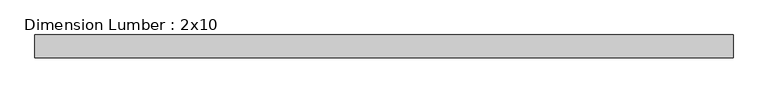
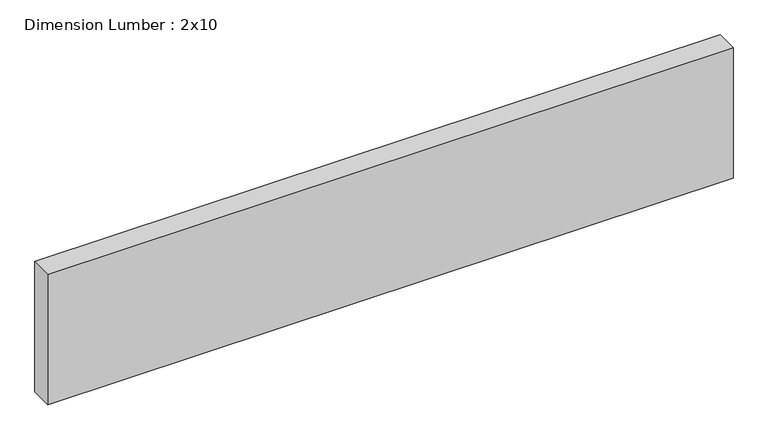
"""IFC4 building model written with IfcOpenShell, lengths in millimetres: beam geometry, Dimension Lumber : 2x10."""

from ifc_helpers import new_model, si_unit, frame, origin, place, context, project, spatial, polyline, outline, extrude, source, transform, mapped, element, save


def dimension_lumber_2x10_7c674044(model_context):
    return source(origin(), model_context, "Body", "SweptSolid", [
        extrude(outline(polyline([(583.5942189, 19.05), (583.5942189, -19.05), (-583.5942189, -19.05), (-583.5942189, 19.05), (583.5942189, 19.05)])), frame((0.0, 0.0, -117.475), z_axis=(0.0, 0.0, 1.0), x_axis=(1.0, 0.0, 0.0)), (0.0, 0.0, 1.0), 234.95),
    ])


if __name__ == "__main__":
    model = new_model("IFC4")
    model_context = context("Model", 3, world=origin())
    ifc_project = project(units=[si_unit("LENGTHUNIT", "METRE", prefix="MILLI")], contexts=[model_context])
    site = spatial("IfcSite", under=ifc_project)
    building = spatial("IfcBuilding", under=site)
    placement = place(None, origin())
    dimension_lumber_2x10_shape = dimension_lumber_2x10_7c674044(model_context)
    element("IfcBeam", 1, ObjectType="Dimension Lumber : 2x10", at=placement, inside=building, context=model_context, shape_type="MappedRepresentation", body=[
        mapped(dimension_lumber_2x10_shape, transform((0.0, 0.0, 0.0), x_axis=(1.0, 0.0, 0.0), y_axis=(0.0, 1.0, 0.0), z_axis=(0.0, 0.0, 1.0))),
    ])
    save(model, "model.ifc")
